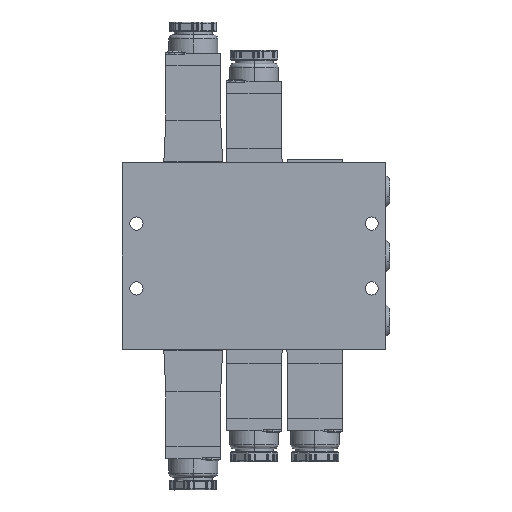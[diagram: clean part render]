
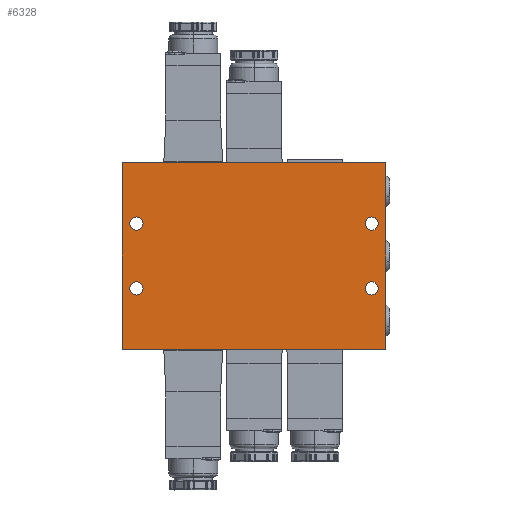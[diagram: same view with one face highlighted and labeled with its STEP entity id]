
A CAD part, front view. The second image highlights one B-rep face of the part: STEP entity #6328.
In plain terms, the highlighted planar face has unit normal (0, -1, 0).
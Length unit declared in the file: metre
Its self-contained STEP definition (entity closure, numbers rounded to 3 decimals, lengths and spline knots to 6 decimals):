
#66 = AXIS2_PLACEMENT_3D ( 'NONE', #3513, #21126, #6074 ) ;
#226 = ORIENTED_EDGE ( 'NONE', *, *, #17614, .F. ) ;
#253 = EDGE_CURVE ( 'NONE', #27957, #16963, #18321, .T. ) ;
#256 = DIRECTION ( 'NONE',  ( -1., 0., 0. ) ) ;
#1936 = CARTESIAN_POINT ( 'NONE',  ( -0.065, -0.015, -0.046 ) ) ;
#2036 = VERTEX_POINT ( 'NONE', #30957 ) ;
#2131 = CARTESIAN_POINT ( 'NONE',  ( 0., -0.015, -0.046 ) ) ;
#2270 = DIRECTION ( 'NONE',  ( 0., -1., 0. ) ) ;
#2302 = AXIS2_PLACEMENT_3D ( 'NONE', #7775, #25311, #10239 ) ;
#2626 = EDGE_CURVE ( 'NONE', #29075, #5794, #18227, .T. ) ;
#2981 = DIRECTION ( 'NONE',  ( 0., 0., -1. ) ) ;
#3192 = CIRCLE ( 'NONE', #2302, 0.00325 ) ;
#3218 = CARTESIAN_POINT ( 'NONE',  ( 0.065, -0.015, 0. ) ) ;
#3361 = VERTEX_POINT ( 'NONE', #12359 ) ;
#3375 = ORIENTED_EDGE ( 'NONE', *, *, #26621, .F. ) ;
#3383 = CARTESIAN_POINT ( 'NONE',  ( -0.06125, -0.015, -0.016 ) ) ;
#3461 = CARTESIAN_POINT ( 'NONE',  ( -0.065, -0.015, 0. ) ) ;
#3500 = VERTEX_POINT ( 'NONE', #8501 ) ;
#3513 = CARTESIAN_POINT ( 'NONE',  ( -0.058, -0.015, 0.016 ) ) ;
#3984 = DIRECTION ( 'NONE',  ( 0., -1., 0. ) ) ;
#4021 = FACE_BOUND ( 'NONE', #28317, .T. ) ;
#4325 = ORIENTED_EDGE ( 'NONE', *, *, #253, .F. ) ;
#4516 = CARTESIAN_POINT ( 'NONE',  ( 0.058, -0.015, -0.016 ) ) ;
#4580 = AXIS2_PLACEMENT_3D ( 'NONE', #4516, #22133, #7079 ) ;
#4625 = VECTOR ( 'NONE', #29012, 1. ) ;
#4824 = VECTOR ( 'NONE', #2981, 1. ) ;
#4909 = VERTEX_POINT ( 'NONE', #17985 ) ;
#5411 = VERTEX_POINT ( 'NONE', #1936 ) ;
#5432 = LINE ( 'NONE', #11633, #4625 ) ;
#5745 = CARTESIAN_POINT ( 'NONE',  ( -0.058, -0.015, -0.016 ) ) ;
#5794 = VERTEX_POINT ( 'NONE', #10848 ) ;
#5996 = ORIENTED_EDGE ( 'NONE', *, *, #22681, .F. ) ;
#6010 = ORIENTED_EDGE ( 'NONE', *, *, #30955, .F. ) ;
#6074 = DIRECTION ( 'NONE',  ( -1., 0., 0. ) ) ;
#6328 = ADVANCED_FACE ( 'NONE', ( #17418, #23301, #4021, #10677, #18986 ), #21896, .F. ) ;
#6691 = AXIS2_PLACEMENT_3D ( 'NONE', #19363, #11859, #29211 ) ;
#7079 = DIRECTION ( 'NONE',  ( -1., 0., 0. ) ) ;
#7246 = DIRECTION ( 'NONE',  ( -1., 0., 0. ) ) ;
#7775 = CARTESIAN_POINT ( 'NONE',  ( 0.058, -0.015, -0.016 ) ) ;
#8274 = DIRECTION ( 'NONE',  ( -1., 0., 0. ) ) ;
#8501 = CARTESIAN_POINT ( 'NONE',  ( -0.065, -0.015, 0.046 ) ) ;
#8834 = ORIENTED_EDGE ( 'NONE', *, *, #26049, .F. ) ;
#8885 = ORIENTED_EDGE ( 'NONE', *, *, #23610, .F. ) ;
#9201 = EDGE_CURVE ( 'NONE', #3361, #4909, #3192, .T. ) ;
#9784 = ORIENTED_EDGE ( 'NONE', *, *, #2626, .F. ) ;
#9870 = EDGE_CURVE ( 'NONE', #20517, #10493, #25586, .T. ) ;
#10239 = DIRECTION ( 'NONE',  ( -1., 0., 0. ) ) ;
#10493 = VERTEX_POINT ( 'NONE', #3383 ) ;
#10677 = FACE_BOUND ( 'NONE', #29755, .T. ) ;
#10848 = CARTESIAN_POINT ( 'NONE',  ( 0.065, -0.015, -0.046 ) ) ;
#11308 = CARTESIAN_POINT ( 'NONE',  ( -0.05475, -0.015, 0.016 ) ) ;
#11633 = CARTESIAN_POINT ( 'NONE',  ( 0., -0.015, 0.046 ) ) ;
#11713 = VERTEX_POINT ( 'NONE', #11308 ) ;
#11859 = DIRECTION ( 'NONE',  ( 0., 1., 0. ) ) ;
#11942 = VECTOR ( 'NONE', #7246, 1. ) ;
#12359 = CARTESIAN_POINT ( 'NONE',  ( 0.05475, -0.015, -0.016 ) ) ;
#12398 = CARTESIAN_POINT ( 'NONE',  ( 0.06125, -0.015, 0.016 ) ) ;
#12883 = AXIS2_PLACEMENT_3D ( 'NONE', #19050, #3984, #21591 ) ;
#14163 = AXIS2_PLACEMENT_3D ( 'NONE', #14630, #14791, #14965 ) ;
#14421 = EDGE_LOOP ( 'NONE', ( #9784, #8885, #27353, #226 ) ) ;
#14630 = CARTESIAN_POINT ( 'NONE',  ( 0.058, -0.015, 0.016 ) ) ;
#14791 = DIRECTION ( 'NONE',  ( 0., -1., 0. ) ) ;
#14797 = CIRCLE ( 'NONE', #24670, 0.00325 ) ;
#14965 = DIRECTION ( 'NONE',  ( -1., 0., 0. ) ) ;
#15397 = DIRECTION ( 'NONE',  ( 0., -1., 0. ) ) ;
#16374 = EDGE_LOOP ( 'NONE', ( #8834, #23975 ) ) ;
#16963 = VERTEX_POINT ( 'NONE', #25788 ) ;
#17124 = CIRCLE ( 'NONE', #18388, 0.00325 ) ;
#17334 = CARTESIAN_POINT ( 'NONE',  ( -0.05475, -0.015, -0.016 ) ) ;
#17384 = CARTESIAN_POINT ( 'NONE',  ( 0.058, -0.015, 0.016 ) ) ;
#17418 = FACE_BOUND ( 'NONE', #23663, .T. ) ;
#17614 = EDGE_CURVE ( 'NONE', #5794, #5411, #18667, .T. ) ;
#17695 = CIRCLE ( 'NONE', #4580, 0.00325 ) ;
#17985 = CARTESIAN_POINT ( 'NONE',  ( 0.06125, -0.015, -0.016 ) ) ;
#18227 = LINE ( 'NONE', #3218, #4824 ) ;
#18321 = CIRCLE ( 'NONE', #14163, 0.00325 ) ;
#18388 = AXIS2_PLACEMENT_3D ( 'NONE', #30111, #15397, #256 ) ;
#18538 = DIRECTION ( 'NONE',  ( 0., 0., 1. ) ) ;
#18667 = LINE ( 'NONE', #2131, #11942 ) ;
#18823 = ORIENTED_EDGE ( 'NONE', *, *, #19905, .F. ) ;
#18986 = FACE_OUTER_BOUND ( 'NONE', #14421, .T. ) ;
#19050 = CARTESIAN_POINT ( 'NONE',  ( -0.058, -0.015, -0.016 ) ) ;
#19363 = CARTESIAN_POINT ( 'NONE',  ( -0.065, -0.015, -0.046 ) ) ;
#19903 = DIRECTION ( 'NONE',  ( -1., 0., 0. ) ) ;
#19905 = EDGE_CURVE ( 'NONE', #2036, #11713, #28596, .T. ) ;
#20424 = LINE ( 'NONE', #3461, #25502 ) ;
#20517 = VERTEX_POINT ( 'NONE', #17334 ) ;
#21126 = DIRECTION ( 'NONE',  ( 0., -1., 0. ) ) ;
#21591 = DIRECTION ( 'NONE',  ( -1., 0., 0. ) ) ;
#21896 = PLANE ( 'NONE',  #6691 ) ;
#22133 = DIRECTION ( 'NONE',  ( 0., -1., 0. ) ) ;
#22681 = EDGE_CURVE ( 'NONE', #4909, #3361, #17695, .T. ) ;
#22915 = EDGE_CURVE ( 'NONE', #5411, #3500, #20424, .T. ) ;
#23301 = FACE_BOUND ( 'NONE', #16374, .T. ) ;
#23317 = DIRECTION ( 'NONE',  ( 0., -1., 0. ) ) ;
#23610 = EDGE_CURVE ( 'NONE', #3500, #29075, #5432, .T. ) ;
#23663 = EDGE_LOOP ( 'NONE', ( #6010, #4325 ) ) ;
#23975 = ORIENTED_EDGE ( 'NONE', *, *, #9870, .F. ) ;
#24670 = AXIS2_PLACEMENT_3D ( 'NONE', #5745, #23317, #8274 ) ;
#25311 = DIRECTION ( 'NONE',  ( 0., -1., 0. ) ) ;
#25502 = VECTOR ( 'NONE', #18538, 1. ) ;
#25586 = CIRCLE ( 'NONE', #12883, 0.00325 ) ;
#25788 = CARTESIAN_POINT ( 'NONE',  ( 0.05475, -0.015, 0.016 ) ) ;
#26049 = EDGE_CURVE ( 'NONE', #10493, #20517, #14797, .T. ) ;
#26621 = EDGE_CURVE ( 'NONE', #11713, #2036, #17124, .T. ) ;
#27353 = ORIENTED_EDGE ( 'NONE', *, *, #22915, .F. ) ;
#27468 = CARTESIAN_POINT ( 'NONE',  ( 0.065, -0.015, 0.046 ) ) ;
#27953 = CIRCLE ( 'NONE', #29963, 0.00325 ) ;
#27957 = VERTEX_POINT ( 'NONE', #12398 ) ;
#28317 = EDGE_LOOP ( 'NONE', ( #18823, #3375 ) ) ;
#28596 = CIRCLE ( 'NONE', #66, 0.00325 ) ;
#29012 = DIRECTION ( 'NONE',  ( 1., 0., 0. ) ) ;
#29075 = VERTEX_POINT ( 'NONE', #27468 ) ;
#29211 = DIRECTION ( 'NONE',  ( 0., 0., 1. ) ) ;
#29755 = EDGE_LOOP ( 'NONE', ( #31994, #5996 ) ) ;
#29963 = AXIS2_PLACEMENT_3D ( 'NONE', #17384, #2270, #19903 ) ;
#30111 = CARTESIAN_POINT ( 'NONE',  ( -0.058, -0.015, 0.016 ) ) ;
#30955 = EDGE_CURVE ( 'NONE', #16963, #27957, #27953, .T. ) ;
#30957 = CARTESIAN_POINT ( 'NONE',  ( -0.06125, -0.015, 0.016 ) ) ;
#31994 = ORIENTED_EDGE ( 'NONE', *, *, #9201, .F. ) ;
